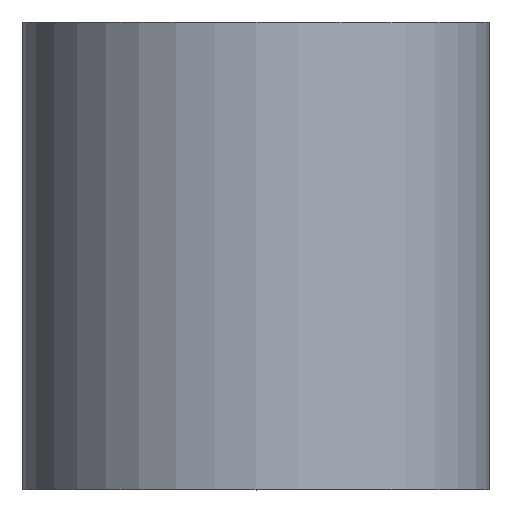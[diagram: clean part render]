
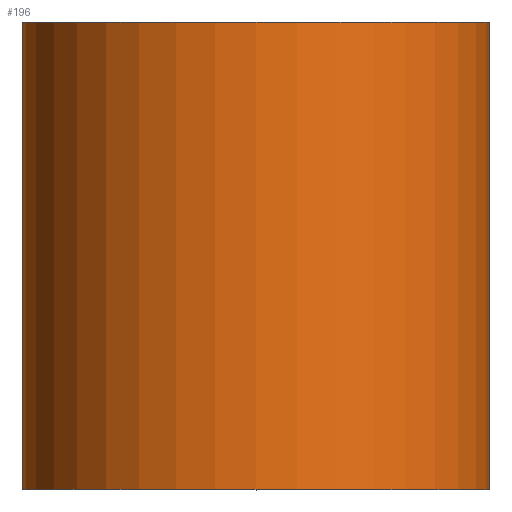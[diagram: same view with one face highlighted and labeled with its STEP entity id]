
A CAD part, top view. The second image highlights one B-rep face of the part: STEP entity #196.
In plain terms, the highlighted cylindrical face has radius 4 mm (diameter 8 mm), a partial arc.
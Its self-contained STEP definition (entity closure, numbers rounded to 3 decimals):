
#21 = DIRECTION ( 'NONE',  ( -1., 0., 0. ) ) ;
#23 = EDGE_CURVE ( 'NONE', #292, #52, #185, .T. ) ;
#35 = EDGE_CURVE ( 'NONE', #283, #292, #281, .T. ) ;
#40 = CIRCLE ( 'NONE', #210, 4. ) ;
#50 = DIRECTION ( 'NONE',  ( 0., 1., 0. ) ) ;
#52 = VERTEX_POINT ( 'NONE', #191 ) ;
#65 = LINE ( 'NONE', #301, #100 ) ;
#70 = CARTESIAN_POINT ( 'NONE',  ( 0., 0., 0. ) ) ;
#71 = DIRECTION ( 'NONE',  ( 0., 1., 0. ) ) ;
#80 = AXIS2_PLACEMENT_3D ( 'NONE', #87, #173, #247 ) ;
#87 = CARTESIAN_POINT ( 'NONE',  ( 0., 0., 0. ) ) ;
#88 = FACE_OUTER_BOUND ( 'NONE', #275, .T. ) ;
#99 = EDGE_CURVE ( 'NONE', #283, #159, #40, .T. ) ;
#100 = VECTOR ( 'NONE', #71, 1000. ) ;
#101 = CARTESIAN_POINT ( 'NONE',  ( -4., 0., 0. ) ) ;
#107 = EDGE_CURVE ( 'NONE', #159, #52, #65, .T. ) ;
#119 = DIRECTION ( 'NONE',  ( -1., 0., 0. ) ) ;
#151 = ORIENTED_EDGE ( 'NONE', *, *, #23, .F. ) ;
#159 = VERTEX_POINT ( 'NONE', #244 ) ;
#173 = DIRECTION ( 'NONE',  ( 0., 1., 0. ) ) ;
#185 = CIRCLE ( 'NONE', #198, 4. ) ;
#191 = CARTESIAN_POINT ( 'NONE',  ( 4., 8., 0. ) ) ;
#196 = ADVANCED_FACE ( 'NONE', ( #88 ), #237, .T. ) ;
#198 = AXIS2_PLACEMENT_3D ( 'NONE', #236, #265, #119 ) ;
#207 = ORIENTED_EDGE ( 'NONE', *, *, #35, .F. ) ;
#210 = AXIS2_PLACEMENT_3D ( 'NONE', #70, #267, #21 ) ;
#218 = CARTESIAN_POINT ( 'NONE',  ( -4., 8., 0. ) ) ;
#236 = CARTESIAN_POINT ( 'NONE',  ( 0., 8., 0. ) ) ;
#237 = CYLINDRICAL_SURFACE ( 'NONE', #80, 4. ) ;
#244 = CARTESIAN_POINT ( 'NONE',  ( 4., 0., 0. ) ) ;
#247 = DIRECTION ( 'NONE',  ( -1., 0., 0. ) ) ;
#265 = DIRECTION ( 'NONE',  ( 0., 1., 0. ) ) ;
#266 = ORIENTED_EDGE ( 'NONE', *, *, #99, .T. ) ;
#267 = DIRECTION ( 'NONE',  ( 0., 1., 0. ) ) ;
#268 = CARTESIAN_POINT ( 'NONE',  ( -4., 0., 0. ) ) ;
#272 = VECTOR ( 'NONE', #50, 1000. ) ;
#273 = ORIENTED_EDGE ( 'NONE', *, *, #107, .T. ) ;
#275 = EDGE_LOOP ( 'NONE', ( #266, #273, #151, #207 ) ) ;
#281 = LINE ( 'NONE', #268, #272 ) ;
#283 = VERTEX_POINT ( 'NONE', #101 ) ;
#292 = VERTEX_POINT ( 'NONE', #218 ) ;
#301 = CARTESIAN_POINT ( 'NONE',  ( 4., 0., 0. ) ) ;
